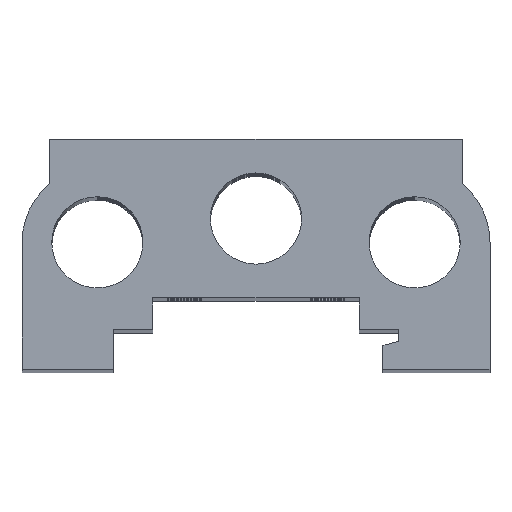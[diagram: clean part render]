
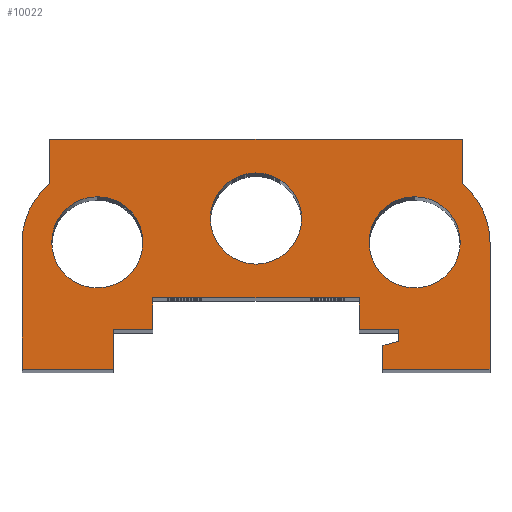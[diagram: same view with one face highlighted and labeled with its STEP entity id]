
A CAD part, top view. The second image highlights one B-rep face of the part: STEP entity #10022.
In plain terms, the highlighted planar face has unit normal (0, 0, 1).
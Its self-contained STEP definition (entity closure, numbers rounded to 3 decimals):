
#8946=CARTESIAN_POINT('',(25.75,16.0,258.0));
#8947=VERTEX_POINT('',#8946);
#8948=CARTESIAN_POINT('',(20.0,16.0,258.0));
#8949=DIRECTION('',(0.0,0.0,-1.0));
#8950=DIRECTION('',(-1.0,0.0,0.0));
#8951=AXIS2_PLACEMENT_3D('',#8948,#8949,#8950);
#8952=CIRCLE('',#8951,5.75);
#8953=EDGE_CURVE('',#8947,#8947,#8952,.T.);
#9010=CARTESIAN_POINT('',(5.75,19.0,258.0));
#9011=VERTEX_POINT('',#9010);
#9012=CARTESIAN_POINT('',(0.0,19.0,258.0));
#9013=DIRECTION('',(0.0,0.0,-1.0));
#9014=DIRECTION('',(-1.0,0.0,0.0));
#9015=AXIS2_PLACEMENT_3D('',#9012,#9013,#9014);
#9016=CIRCLE('',#9015,5.75);
#9017=EDGE_CURVE('',#9011,#9011,#9016,.T.);
#9065=CARTESIAN_POINT('',(-14.25,16.0,258.0));
#9066=VERTEX_POINT('',#9065);
#9067=CARTESIAN_POINT('',(-20.0,16.0,258.0));
#9068=DIRECTION('',(0.0,0.0,-1.0));
#9069=DIRECTION('',(-1.0,0.0,0.0));
#9070=AXIS2_PLACEMENT_3D('',#9067,#9068,#9069);
#9071=CIRCLE('',#9070,5.75);
#9072=EDGE_CURVE('',#9066,#9066,#9071,.T.);
#9129=CARTESIAN_POINT('',(-29.5,16.,258.0));
#9130=VERTEX_POINT('',#9129);
#9131=CARTESIAN_POINT('',(-26.,23.365,258.0));
#9132=VERTEX_POINT('',#9131);
#9133=CARTESIAN_POINT('',(-20.0,16.0,258.0));
#9134=DIRECTION('',(0.0,0.0,-1.0));
#9135=DIRECTION('',(-0.632,0.775,0.0));
#9136=AXIS2_PLACEMENT_3D('',#9133,#9134,#9135);
#9137=CIRCLE('',#9136,9.5);
#9138=EDGE_CURVE('',#9130,#9132,#9137,.T.);
#9171=CARTESIAN_POINT('',(-26.,29.,258.0));
#9172=VERTEX_POINT('',#9171);
#9173=CARTESIAN_POINT('',(-26.,23.365,258.0));
#9174=DIRECTION('',(0.0,1.0,0.0));
#9175=VECTOR('',#9174,5.635);
#9176=LINE('',#9173,#9175);
#9177=EDGE_CURVE('',#9132,#9172,#9176,.T.);
#9202=CARTESIAN_POINT('',(26.,29.,258.0));
#9203=VERTEX_POINT('',#9202);
#9204=CARTESIAN_POINT('',(-26.,29.,258.0));
#9205=DIRECTION('',(1.0,0.0,0.0));
#9206=VECTOR('',#9205,52.);
#9207=LINE('',#9204,#9206);
#9208=EDGE_CURVE('',#9172,#9203,#9207,.T.);
#9434=CARTESIAN_POINT('',(26.0,23.365,258.0));
#9435=VERTEX_POINT('',#9434);
#9436=CARTESIAN_POINT('',(26.,29.,258.0));
#9437=DIRECTION('',(0.0,-1.0,0.0));
#9438=VECTOR('',#9437,5.635);
#9439=LINE('',#9436,#9438);
#9440=EDGE_CURVE('',#9203,#9435,#9439,.T.);
#9465=CARTESIAN_POINT('',(29.5,16.0,258.0));
#9466=VERTEX_POINT('',#9465);
#9467=CARTESIAN_POINT('',(20.0,16.0,258.0));
#9468=DIRECTION('',(0.0,0.0,-1.0));
#9469=DIRECTION('',(1.0,0.0,0.0));
#9470=AXIS2_PLACEMENT_3D('',#9467,#9468,#9469);
#9471=CIRCLE('',#9470,9.5);
#9472=EDGE_CURVE('',#9435,#9466,#9471,.T.);
#9498=CARTESIAN_POINT('',(29.5,0.0,258.0));
#9499=VERTEX_POINT('',#9498);
#9500=CARTESIAN_POINT('',(29.5,16.0,258.0));
#9501=DIRECTION('',(0.0,-1.0,0.0));
#9502=VECTOR('',#9501,16.0);
#9503=LINE('',#9500,#9502);
#9504=EDGE_CURVE('',#9466,#9499,#9503,.T.);
#9529=CARTESIAN_POINT('',(16.,0.0,258.0));
#9530=VERTEX_POINT('',#9529);
#9531=CARTESIAN_POINT('',(29.5,0.0,258.0));
#9532=DIRECTION('',(-1.0,0.0,0.0));
#9533=VECTOR('',#9532,13.5);
#9534=LINE('',#9531,#9533);
#9535=EDGE_CURVE('',#9499,#9530,#9534,.T.);
#9560=CARTESIAN_POINT('',(16.,3.,258.0));
#9561=VERTEX_POINT('',#9560);
#9562=CARTESIAN_POINT('',(16.,0.0,258.0));
#9563=DIRECTION('',(0.0,1.0,0.0));
#9564=VECTOR('',#9563,3.);
#9565=LINE('',#9562,#9564);
#9566=EDGE_CURVE('',#9530,#9561,#9565,.T.);
#9591=CARTESIAN_POINT('',(18.0,3.536,258.0));
#9592=VERTEX_POINT('',#9591);
#9593=CARTESIAN_POINT('',(16.,3.,258.0));
#9594=DIRECTION('',(0.966,0.259,0.0));
#9595=VECTOR('',#9594,2.071);
#9596=LINE('',#9593,#9595);
#9597=EDGE_CURVE('',#9561,#9592,#9596,.T.);
#9622=CARTESIAN_POINT('',(18.,5.0,258.0));
#9623=VERTEX_POINT('',#9622);
#9624=CARTESIAN_POINT('',(18.0,3.536,258.0));
#9625=DIRECTION('',(0.0,1.0,0.0));
#9626=VECTOR('',#9625,1.464);
#9627=LINE('',#9624,#9626);
#9628=EDGE_CURVE('',#9592,#9623,#9627,.T.);
#9653=CARTESIAN_POINT('',(13.0,5.0,258.0));
#9654=VERTEX_POINT('',#9653);
#9655=CARTESIAN_POINT('',(18.,5.0,258.0));
#9656=DIRECTION('',(-1.0,0.0,0.0));
#9657=VECTOR('',#9656,5.);
#9658=LINE('',#9655,#9657);
#9659=EDGE_CURVE('',#9623,#9654,#9658,.T.);
#9684=CARTESIAN_POINT('',(13.0,9.0,258.0));
#9685=VERTEX_POINT('',#9684);
#9686=CARTESIAN_POINT('',(13.0,5.0,258.0));
#9687=DIRECTION('',(0.0,1.0,0.0));
#9688=VECTOR('',#9687,4.0);
#9689=LINE('',#9686,#9688);
#9690=EDGE_CURVE('',#9654,#9685,#9689,.T.);
#9715=CARTESIAN_POINT('',(-13.0,9.0,258.0));
#9716=VERTEX_POINT('',#9715);
#9717=CARTESIAN_POINT('',(13.0,9.0,258.0));
#9718=DIRECTION('',(-1.0,0.0,0.0));
#9719=VECTOR('',#9718,26.0);
#9720=LINE('',#9717,#9719);
#9721=EDGE_CURVE('',#9685,#9716,#9720,.T.);
#9812=CARTESIAN_POINT('',(-13.0,5.0,258.0));
#9813=VERTEX_POINT('',#9812);
#9814=CARTESIAN_POINT('',(-13.0,9.0,258.0));
#9815=DIRECTION('',(0.0,-1.0,0.0));
#9816=VECTOR('',#9815,4.0);
#9817=LINE('',#9814,#9816);
#9818=EDGE_CURVE('',#9716,#9813,#9817,.T.);
#9843=CARTESIAN_POINT('',(-18.0,5.0,258.0));
#9844=VERTEX_POINT('',#9843);
#9845=CARTESIAN_POINT('',(-13.0,5.0,258.0));
#9846=DIRECTION('',(-1.0,0.0,0.0));
#9847=VECTOR('',#9846,5.0);
#9848=LINE('',#9845,#9847);
#9849=EDGE_CURVE('',#9813,#9844,#9848,.T.);
#9874=CARTESIAN_POINT('',(-18.0,0.0,258.0));
#9875=VERTEX_POINT('',#9874);
#9876=CARTESIAN_POINT('',(-18.0,5.0,258.0));
#9877=DIRECTION('',(0.0,-1.0,0.0));
#9878=VECTOR('',#9877,5.0);
#9879=LINE('',#9876,#9878);
#9880=EDGE_CURVE('',#9844,#9875,#9879,.T.);
#9905=CARTESIAN_POINT('',(-29.5,0.0,258.0));
#9906=VERTEX_POINT('',#9905);
#9907=CARTESIAN_POINT('',(-18.0,0.0,258.0));
#9908=DIRECTION('',(-1.0,0.0,0.0));
#9909=VECTOR('',#9908,11.5);
#9910=LINE('',#9907,#9909);
#9911=EDGE_CURVE('',#9875,#9906,#9910,.T.);
#9936=CARTESIAN_POINT('',(-29.5,0.0,258.0));
#9937=DIRECTION('',(0.0,1.0,0.0));
#9938=VECTOR('',#9937,16.);
#9939=LINE('',#9936,#9938);
#9940=EDGE_CURVE('',#9906,#9130,#9939,.T.);
#9988=CARTESIAN_POINT('',(0.278,14.351,258.0));
#9989=DIRECTION('',(0.0,0.0,1.0));
#9990=DIRECTION('',(1.0,0.0,0.0));
#9991=AXIS2_PLACEMENT_3D('',#9988,#9989,#9990);
#9992=PLANE('',#9991);
#9993=ORIENTED_EDGE('',*,*,#9138,.F.);
#9994=ORIENTED_EDGE('',*,*,#9940,.F.);
#9995=ORIENTED_EDGE('',*,*,#9911,.F.);
#9996=ORIENTED_EDGE('',*,*,#9880,.F.);
#9997=ORIENTED_EDGE('',*,*,#9849,.F.);
#9998=ORIENTED_EDGE('',*,*,#9818,.F.);
#9999=ORIENTED_EDGE('',*,*,#9721,.F.);
#10000=ORIENTED_EDGE('',*,*,#9690,.F.);
#10001=ORIENTED_EDGE('',*,*,#9659,.F.);
#10002=ORIENTED_EDGE('',*,*,#9628,.F.);
#10003=ORIENTED_EDGE('',*,*,#9597,.F.);
#10004=ORIENTED_EDGE('',*,*,#9566,.F.);
#10005=ORIENTED_EDGE('',*,*,#9535,.F.);
#10006=ORIENTED_EDGE('',*,*,#9504,.F.);
#10007=ORIENTED_EDGE('',*,*,#9472,.F.);
#10008=ORIENTED_EDGE('',*,*,#9440,.F.);
#10009=ORIENTED_EDGE('',*,*,#9208,.F.);
#10010=ORIENTED_EDGE('',*,*,#9177,.F.);
#10011=EDGE_LOOP('',(#9993,#9994,#9995,#9996,#9997,#9998,#9999,#10000,#10001,#10002,#10003,#10004,#10005,#10006,#10007,#10008,#10009,#10010));
#10012=FACE_OUTER_BOUND('',#10011,.T.);
#10013=ORIENTED_EDGE('',*,*,#8953,.T.);
#10014=EDGE_LOOP('',(#10013));
#10015=FACE_BOUND('',#10014,.T.);
#10016=ORIENTED_EDGE('',*,*,#9017,.T.);
#10017=EDGE_LOOP('',(#10016));
#10018=FACE_BOUND('',#10017,.T.);
#10019=ORIENTED_EDGE('',*,*,#9072,.T.);
#10020=EDGE_LOOP('',(#10019));
#10021=FACE_BOUND('',#10020,.T.);
#10022=ADVANCED_FACE('',(#10012,#10015,#10018,#10021),#9992,.T.);
